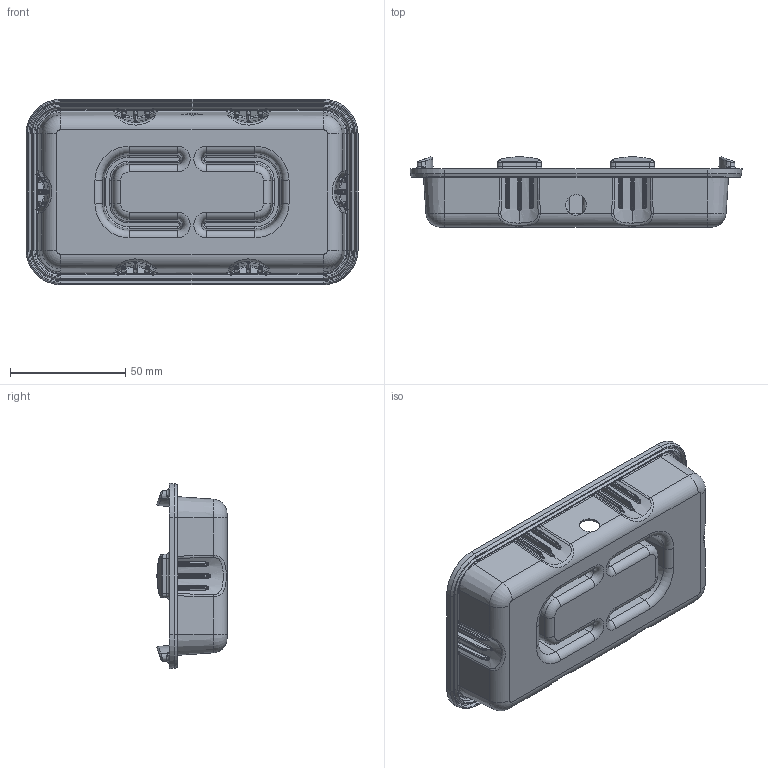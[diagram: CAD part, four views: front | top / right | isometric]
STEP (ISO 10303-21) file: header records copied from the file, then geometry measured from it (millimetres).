
FILE_DESCRIPTION (( 'STEP AP214' ), '1' );
FILE_NAME ('1015-966-CLR.STEP', '2009-08-12T00:36:13', ( ' ' ), ( ' ' ), 'SwSTEP 2.0', 'SolidWorks 2007', '' );
FILE_SCHEMA (( 'AUTOMOTIVE_DESIGN' ));
Length unit declared in the file: inch
Products named in the file (1): 1015-966-CLR
Bounding box: 143.94 x 30.37 x 80.44 mm (x, y, z)
Volume: 42291.8 mm3; surface area: 54971.2 mm2
Topology: 1 solids, 1 shells, 1095 faces, 2570 edges, 1480 vertices
Faces by surface type: bspline 392, cylinder 278, plane 183, cone 148, torus 94
Entity records: 42650 total; most frequent: CARTESIAN_POINT 20686, ORIENTED_EDGE 5140, DIRECTION 4015, EDGE_CURVE 2570, AXIS2_PLACEMENT_3D 1626, VERTEX_POINT 1480, EDGE_LOOP 1100, ADVANCED_FACE 1095
